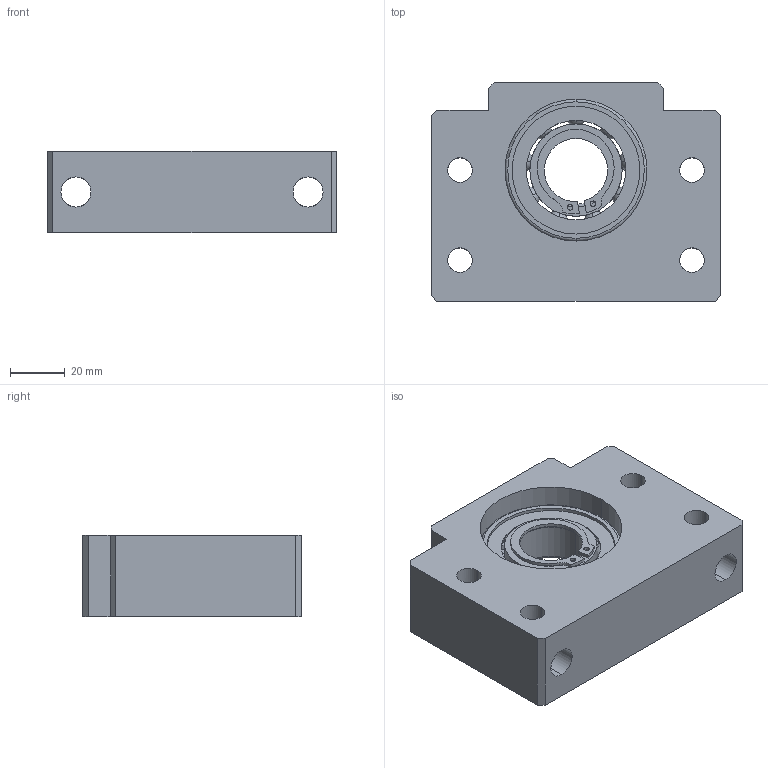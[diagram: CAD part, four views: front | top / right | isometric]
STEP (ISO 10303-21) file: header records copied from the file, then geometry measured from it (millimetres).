
FILE_DESCRIPTION (( 'STEP AP214' ), '1' );
FILE_NAME ('7.4013 BF25.STEP', '2026-03-06T07:05:48', ( '' ), ( '' ), 'SwSTEP 2.0', 'SolidWorks 2025', '' );
FILE_SCHEMA (( 'AUTOMOTIVE_DESIGN' ));
Length unit declared in the file: millimetre
Products named in the file (1): 7.4013 BF25
Bounding box: 106 x 80 x 30 mm (x, y, z)
Volume: 170998.3 mm3; surface area: 48290.8 mm2
Topology: 3 solids, 3 shells, 320 faces, 995 edges, 663 vertices
Faces by surface type: sphere 122, plane 77, cylinder 65, torus 39, bspline 17
Entity records: 24365 total; most frequent: CARTESIAN_POINT 13255, ORIENTED_EDGE 1990, DIRECTION 1605, EDGE_CURVE 995, AXIS2_PLACEMENT_3D 696, VERTEX_POINT 663, CIRCLE 392, B_SPLINE_CURVE_WITH_KNOTS 388
